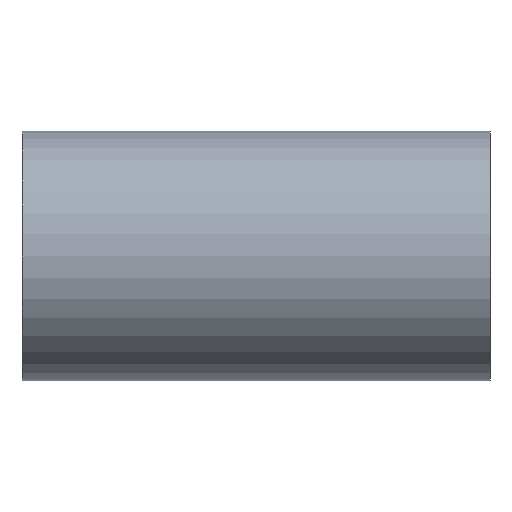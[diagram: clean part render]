
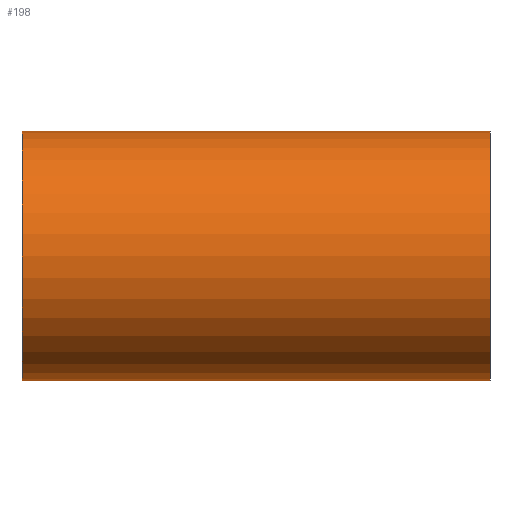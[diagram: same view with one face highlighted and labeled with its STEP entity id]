
A CAD part, front view. The second image highlights one B-rep face of the part: STEP entity #198.
In plain terms, the highlighted cylindrical face has radius 31.75 mm (diameter 63.5 mm), a partial arc.
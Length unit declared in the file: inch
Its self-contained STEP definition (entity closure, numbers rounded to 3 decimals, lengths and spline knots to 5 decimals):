
#48 = CARTESIAN_POINT ( 'NONE',  ( -2.3435, 0., 1.25 ) ) ;
#53 = CIRCLE ( 'NONE', #421, 1.25 ) ;
#60 = DIRECTION ( 'NONE',  ( 1., 0., 0. ) ) ;
#111 = VERTEX_POINT ( 'NONE', #304 ) ;
#115 = VERTEX_POINT ( 'NONE', #197 ) ;
#147 = DIRECTION ( 'NONE',  ( 1., 0., 0. ) ) ;
#161 = LINE ( 'NONE', #409, #231 ) ;
#168 = DIRECTION ( 'NONE',  ( 0., 0., 1. ) ) ;
#175 = CIRCLE ( 'NONE', #461, 1.25 ) ;
#189 = LINE ( 'NONE', #385, #539 ) ;
#197 = CARTESIAN_POINT ( 'NONE',  ( 2.3435, 0., 1.25 ) ) ;
#198 = ADVANCED_FACE ( 'NONE', ( #492 ), #252, .T. ) ;
#231 = VECTOR ( 'NONE', #353, 39.37008 ) ;
#252 = CYLINDRICAL_SURFACE ( 'NONE', #540, 1.25 ) ;
#262 = ORIENTED_EDGE ( 'NONE', *, *, #356, .T. ) ;
#273 = CARTESIAN_POINT ( 'NONE',  ( -2.3435, 0., -1.25 ) ) ;
#304 = CARTESIAN_POINT ( 'NONE',  ( 2.3435, 0., -1.25 ) ) ;
#353 = DIRECTION ( 'NONE',  ( -1., 0., 0. ) ) ;
#356 = EDGE_CURVE ( 'NONE', #655, #520, #175, .T. ) ;
#367 = CARTESIAN_POINT ( 'NONE',  ( 2.3435, 0., 0. ) ) ;
#385 = CARTESIAN_POINT ( 'NONE',  ( 2.3435, 0., -1.25 ) ) ;
#409 = CARTESIAN_POINT ( 'NONE',  ( 2.3435, 0., 1.25 ) ) ;
#421 = AXIS2_PLACEMENT_3D ( 'NONE', #367, #60, #427 ) ;
#423 = CARTESIAN_POINT ( 'NONE',  ( 2.3435, 0., 0. ) ) ;
#427 = DIRECTION ( 'NONE',  ( 0., 0., -1. ) ) ;
#440 = DIRECTION ( 'NONE',  ( -1., 0., 0. ) ) ;
#449 = CARTESIAN_POINT ( 'NONE',  ( -2.3435, 0., 0. ) ) ;
#461 = AXIS2_PLACEMENT_3D ( 'NONE', #449, #147, #491 ) ;
#491 = DIRECTION ( 'NONE',  ( 0., 0., -1. ) ) ;
#492 = FACE_OUTER_BOUND ( 'NONE', #613, .T. ) ;
#496 = EDGE_CURVE ( 'NONE', #115, #111, #53, .T. ) ;
#506 = ORIENTED_EDGE ( 'NONE', *, *, #627, .F. ) ;
#511 = DIRECTION ( 'NONE',  ( -1., 0., 0. ) ) ;
#519 = ORIENTED_EDGE ( 'NONE', *, *, #496, .F. ) ;
#520 = VERTEX_POINT ( 'NONE', #273 ) ;
#539 = VECTOR ( 'NONE', #440, 39.37008 ) ;
#540 = AXIS2_PLACEMENT_3D ( 'NONE', #423, #511, #168 ) ;
#613 = EDGE_LOOP ( 'NONE', ( #506, #519, #658, #262 ) ) ;
#627 = EDGE_CURVE ( 'NONE', #111, #520, #189, .T. ) ;
#645 = EDGE_CURVE ( 'NONE', #115, #655, #161, .T. ) ;
#655 = VERTEX_POINT ( 'NONE', #48 ) ;
#658 = ORIENTED_EDGE ( 'NONE', *, *, #645, .T. ) ;
